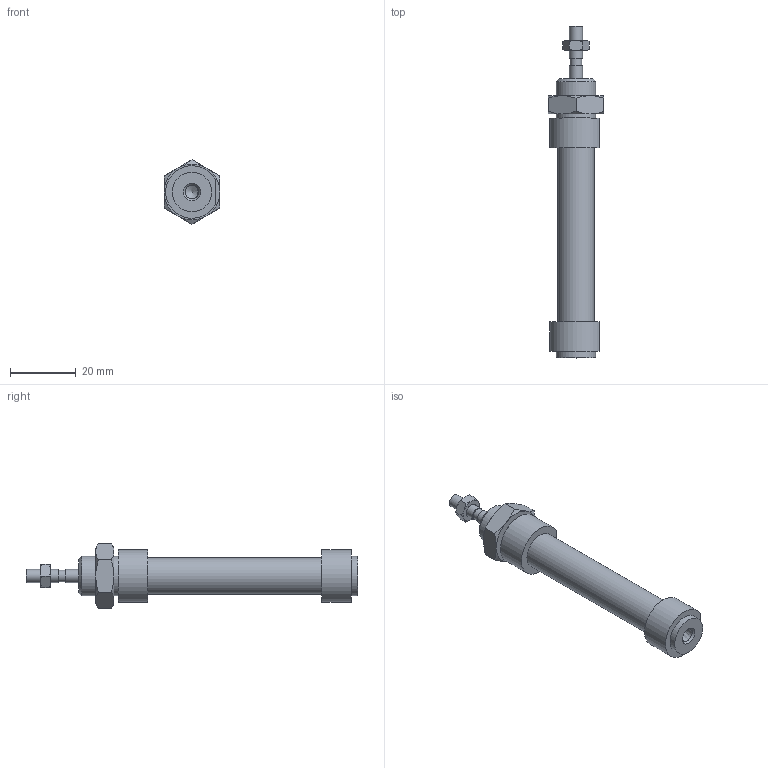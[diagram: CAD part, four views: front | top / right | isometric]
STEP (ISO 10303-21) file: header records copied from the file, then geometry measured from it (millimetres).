
FILE_DESCRIPTION((''),'2;1');
FILE_NAME('I:\Area Tecnica\Disegni\VARIE-3D\Componenti\1280\1281_##_####_#\1281_10_0025.iam.stp','2009-06-04T09:37:28',(''),(''),'Autodesk Inventor 2010','Autodesk Inventor 2010','');
FILE_SCHEMA(('AUTOMOTIVE_DESIGN { 1 0 10303 214 1 1 1 1 }'));
Length unit declared in the file: millimetre
Products named in the file (5): 1281_10_0025; C1281_10_25; S1280_10_25; 1200_10_05; 1200_10_06
Assembly tree (4 placements, depth 2):
  1281_10_0025
    C1281_10_25
    S1280_10_25
    1200_10_05
    1200_10_06
Bounding box: 17 x 101 x 19.63 mm (x, y, z)
Volume: 11229.2 mm3; surface area: 6358.8 mm2
Topology: 4 solids, 4 shells, 79 faces, 165 edges, 100 vertices
Faces by surface type: plane 29, cone 26, bspline 15, cylinder 9
Full cylindrical faces by diameter (mm): 3.5 x1, 4 x3, 11.2 x1, 12 x2
Entity records: 2316 total; most frequent: CARTESIAN_POINT 655, DIRECTION 294, ORIENTED_EDGE 274, EDGE_CURVE 137, AXIS2_PLACEMENT_3D 135, EDGE_LOOP 114, VERTEX_POINT 93, STYLED_ITEM 83
